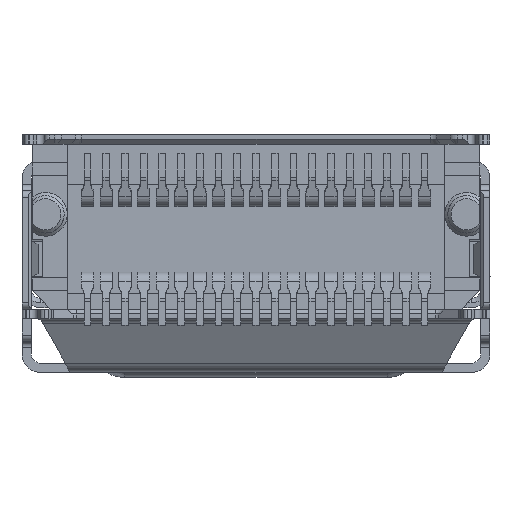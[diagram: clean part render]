
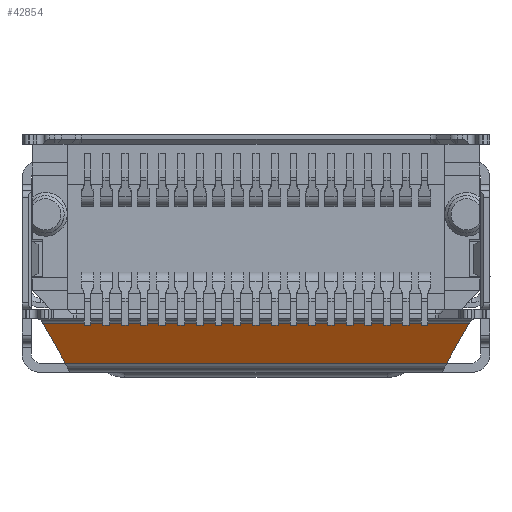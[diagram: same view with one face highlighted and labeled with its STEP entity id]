
A CAD part, front view. The second image highlights one B-rep face of the part: STEP entity #42854.
In plain terms, the highlighted planar face has unit normal (0, -0.866, -0.5).
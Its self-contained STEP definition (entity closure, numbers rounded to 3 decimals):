
#2482=CARTESIAN_POINT('',(-6.108,0.83,
-5.02));
#2484=DIRECTION('',(1.,0.,0.));
#2485=VECTOR('',#2484,12.216);
#2486=CARTESIAN_POINT('',(-6.108,0.83,
-5.02));
#2487=LINE('',#2486,#2485);
#2488=CARTESIAN_POINT('',(6.108,0.83,
-5.02));
#2751=DIRECTION('',(-0.438,-0.449,0.778));
#2752=VECTOR('',#2751,1.644);
#2753=CARTESIAN_POINT('',(-6.108,0.83,
-5.02));
#2754=LINE('',#2753,#2752);
#2755=DIRECTION('',(-0.438,0.449,-0.778));
#2756=VECTOR('',#2755,1.644);
#2757=CARTESIAN_POINT('',(6.829,0.091,
-3.74));
#2758=LINE('',#2757,#2756);
#3819=DIRECTION('',(1.,0.,0.));
#3820=VECTOR('',#3819,13.658);
#3821=CARTESIAN_POINT('',(-6.829,0.091,
-3.74));
#3822=LINE('',#3821,#3820);
#31718=VERTEX_POINT('',#2488);
#31721=VERTEX_POINT('',#2482);
#31858=CARTESIAN_POINT('',(6.829,0.091,
-3.74));
#31859=VERTEX_POINT('',#31858);
#31860=CARTESIAN_POINT('',(-6.829,0.091,
-3.74));
#31861=VERTEX_POINT('',#31860);
#42841=CARTESIAN_POINT('',(0.,0.461,
-4.38));
#42842=DIRECTION('',(0.,0.866,0.5));
#42843=DIRECTION('',(0.,0.5,-0.866));
#42844=AXIS2_PLACEMENT_3D('',#42841,#42842,#42843);
#42845=PLANE('',#42844);
#42846=ORIENTED_EDGE('',*,*,#42384,.F.);
#42848=ORIENTED_EDGE('',*,*,#42847,.T.);
#42850=ORIENTED_EDGE('',*,*,#42849,.T.);
#42851=ORIENTED_EDGE('',*,*,#42833,.T.);
#42852=EDGE_LOOP('',(#42846,#42848,#42850,#42851));
#42853=FACE_OUTER_BOUND('',#42852,.F.);
#42384=EDGE_CURVE('',#31721,#31718,#2487,.T.);
#42833=EDGE_CURVE('',#31859,#31718,#2758,.T.);
#42847=EDGE_CURVE('',#31721,#31861,#2754,.T.);
#42849=EDGE_CURVE('',#31861,#31859,#3822,.T.);
#42854=ADVANCED_FACE('',(#42853),#42845,.F.);
